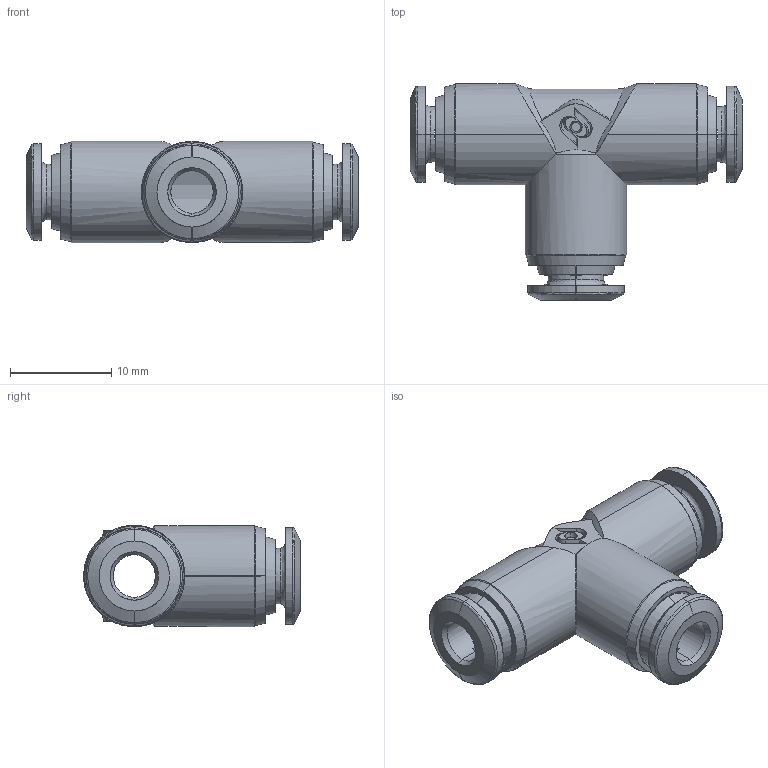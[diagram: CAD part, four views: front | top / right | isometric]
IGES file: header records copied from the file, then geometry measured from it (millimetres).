
Start section: SolidWorks IGES file using analytic representation for surfaces
Global section: file name: C:\Users\cad06\Desktop\Nuova cartella\40230V0001A.IGS; native system: SolidWorks 2016; preprocessor: SolidWorks 2016; author: cad06; date: 160519.145023; units: millimetre
Bounding box: 32.8 x 21.4 x 10 mm (x, y, z)
Surface area: 2220.9 mm2 (no closed solid volume)
Topology: 0 solids, 0 shells, 156 faces, 2108 edges, 2108 vertices
Faces by surface type: revolution 89, bspline 67
